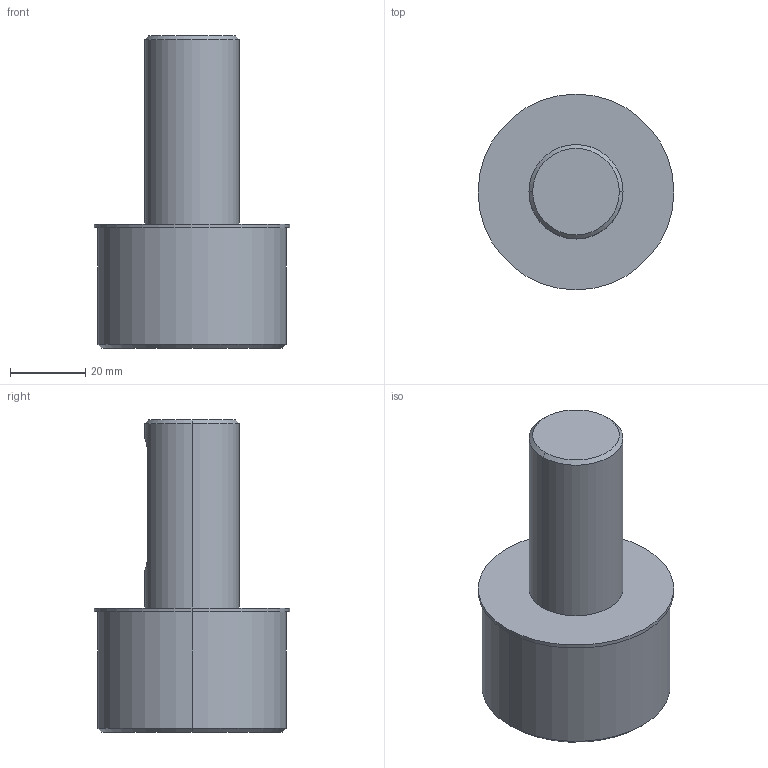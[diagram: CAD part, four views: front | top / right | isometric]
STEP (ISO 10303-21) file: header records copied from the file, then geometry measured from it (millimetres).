
FILE_DESCRIPTION((''),'2;1');
FILE_NAME('SJ-100','2017-03-31T',('Owner'),(''),'PRO/ENGINEER BY PARAMETRIC TECHNOLOGY CORPORATION, 2009440','PRO/ENGINEER BY PARAMETRIC TECHNOLOGY CORPORATION, 2009440','');
FILE_SCHEMA(('CONFIG_CONTROL_DESIGN'));
Length unit declared in the file: millimetre
Products named in the file (1): SJ-100
Bounding box: 52 x 52 x 83 mm (x, y, z)
Volume: 88373.5 mm3; surface area: 13492 mm2
Topology: 1 solids, 1 shells, 19 faces, 38 edges, 24 vertices
Faces by surface type: cylinder 8, plane 7, cone 4
Entity records: 565 total; most frequent: CARTESIAN_POINT 114, DIRECTION 92, ORIENTED_EDGE 76, EDGE_CURVE 38, AXIS2_PLACEMENT_3D 37, VERTEX_POINT 24, EDGE_LOOP 22, FACE_OUTER_BOUND 19
